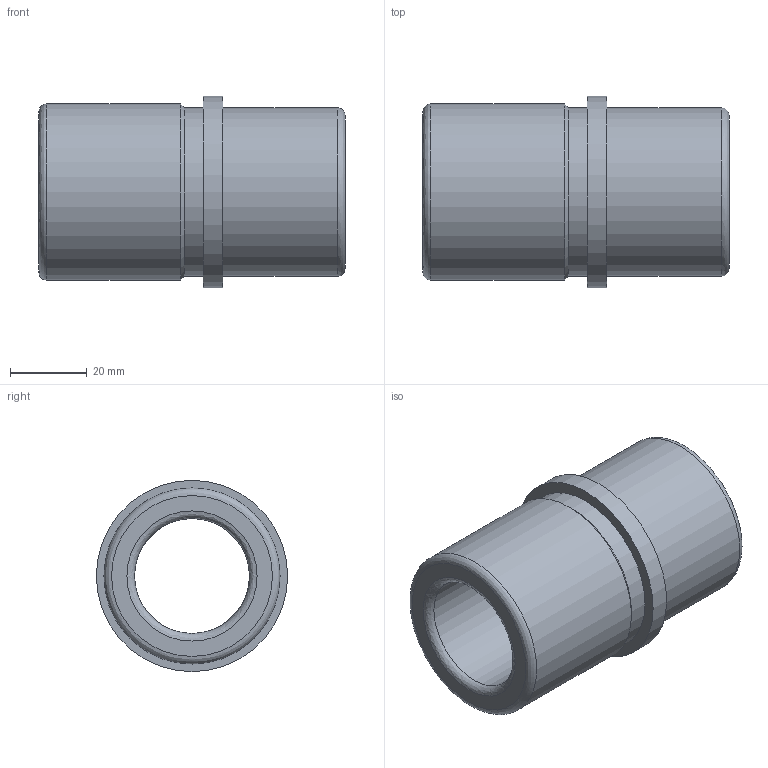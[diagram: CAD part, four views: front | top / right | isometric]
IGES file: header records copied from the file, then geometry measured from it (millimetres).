
Start section: Data from Parasolid IGES Translator 20.0.26, Copyright(c) 2006 Siemens P LM Software. All Rights Reserved.
Global section: file name: WZ - 4053 24 x 80 - 30.igs; native system: By Siemens PLM Incorporated; preprocessor: XPlus GENERIC/IGES 20.0.26; author: Noname; organization: Noname; date: 20201204.210226; units: millimetre
Bounding box: 80 x 50 x 50 mm (x, y, z)
Surface area: 21236.8 mm2 (no closed solid volume)
Topology: 0 solids, 0 shells, 14 faces, 52 edges, 36 vertices
Faces by surface type: revolution 10, extrusion 4
